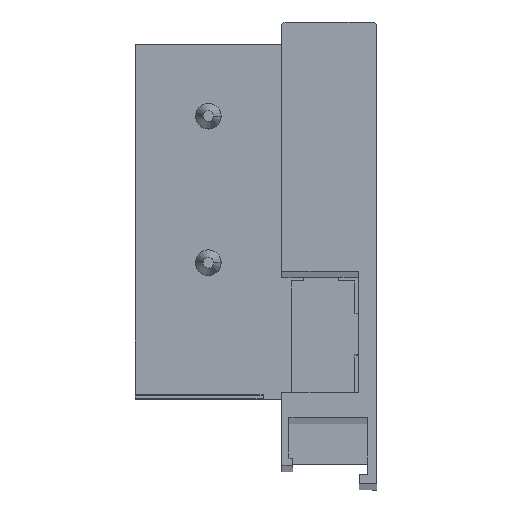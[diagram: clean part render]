
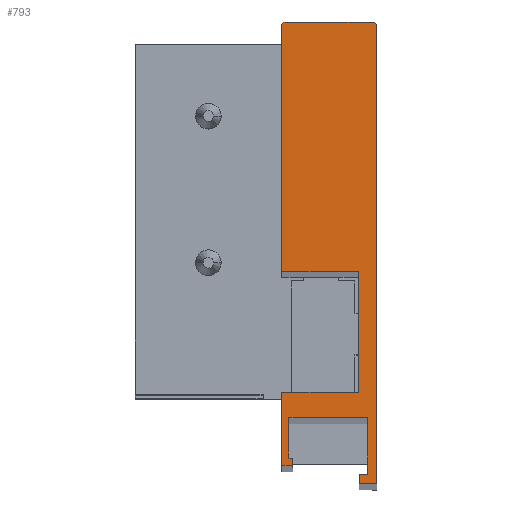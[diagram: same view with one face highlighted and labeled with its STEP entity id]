
A CAD part, top view. The second image highlights one B-rep face of the part: STEP entity #793.
In plain terms, the highlighted planar face has unit normal (0, 0, 1).
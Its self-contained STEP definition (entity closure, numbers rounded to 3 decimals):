
#8 = CARTESIAN_POINT ( 'NONE',  ( 13., 33.5, 0. ) ) ;
#16 = VECTOR ( 'NONE', #1567, 1000. ) ;
#39 = ORIENTED_EDGE ( 'NONE', *, *, #1610, .T. ) ;
#48 = DIRECTION ( 'NONE',  ( -1., 0., 0. ) ) ;
#65 = CARTESIAN_POINT ( 'NONE',  ( 12.5, 34., 0. ) ) ;
#71 = CARTESIAN_POINT ( 'NONE',  ( 1.5, -26.5, 0. ) ) ;
#92 = LINE ( 'NONE', #851, #825 ) ;
#94 = VERTEX_POINT ( 'NONE', #1085 ) ;
#142 = CARTESIAN_POINT ( 'NONE',  ( 12.5, 33.5, 0. ) ) ;
#156 = LINE ( 'NONE', #380, #1536 ) ;
#169 = CARTESIAN_POINT ( 'NONE',  ( 0., -16.5, 0. ) ) ;
#172 = VECTOR ( 'NONE', #48, 1000. ) ;
#174 = VECTOR ( 'NONE', #997, 1000. ) ;
#192 = DIRECTION ( 'NONE',  ( 0., 1., 0. ) ) ;
#213 = CARTESIAN_POINT ( 'NONE',  ( 0.5, 33.5, 0. ) ) ;
#222 = CARTESIAN_POINT ( 'NONE',  ( 0., 0., 0. ) ) ;
#240 = VECTOR ( 'NONE', #492, 1000. ) ;
#244 = VECTOR ( 'NONE', #871, 1000. ) ;
#250 = ORIENTED_EDGE ( 'NONE', *, *, #1949, .T. ) ;
#266 = VERTEX_POINT ( 'NONE', #1207 ) ;
#283 = ORIENTED_EDGE ( 'NONE', *, *, #1850, .T. ) ;
#287 = EDGE_LOOP ( 'NONE', ( #2057, #250, #937, #585, #283, #39, #1768, #1886, #1024, #1071, #1915, #1405, #1836, #1948, #1541, #1195, #656, #1569 ) ) ;
#295 = VECTOR ( 'NONE', #1241, 1000. ) ;
#300 = DIRECTION ( 'NONE',  ( 1., 0., 0. ) ) ;
#313 = VERTEX_POINT ( 'NONE', #386 ) ;
#323 = CARTESIAN_POINT ( 'NONE',  ( 0.5, 33.5, 0. ) ) ;
#332 = VECTOR ( 'NONE', #2024, 1000. ) ;
#334 = DIRECTION ( 'NONE',  ( 0., 0., -1. ) ) ;
#343 = VERTEX_POINT ( 'NONE', #394 ) ;
#349 = CIRCLE ( 'NONE', #1252, 0.5 ) ;
#355 = VERTEX_POINT ( 'NONE', #222 ) ;
#376 = VECTOR ( 'NONE', #926, 1000. ) ;
#380 = CARTESIAN_POINT ( 'NONE',  ( 0.5, 34., 0. ) ) ;
#386 = CARTESIAN_POINT ( 'NONE',  ( 0., -16.5, 0. ) ) ;
#387 = DIRECTION ( 'NONE',  ( -1., 0., 0. ) ) ;
#394 = CARTESIAN_POINT ( 'NONE',  ( 10.5, 0., 0. ) ) ;
#398 = CARTESIAN_POINT ( 'NONE',  ( 1., -19.969, 0. ) ) ;
#399 = CARTESIAN_POINT ( 'NONE',  ( 10.6, -27.7, 0. ) ) ;
#412 = VERTEX_POINT ( 'NONE', #399 ) ;
#462 = LINE ( 'NONE', #579, #16 ) ;
#468 = VERTEX_POINT ( 'NONE', #2113 ) ;
#469 = VECTOR ( 'NONE', #1706, 1000. ) ;
#491 = VECTOR ( 'NONE', #2086, 1000. ) ;
#492 = DIRECTION ( 'NONE',  ( 0., -1., 0. ) ) ;
#509 = CARTESIAN_POINT ( 'NONE',  ( 10.5, -16.5, 0. ) ) ;
#543 = AXIS2_PLACEMENT_3D ( 'NONE', #213, #1392, #387 ) ;
#567 = VERTEX_POINT ( 'NONE', #956 ) ;
#577 = LINE ( 'NONE', #1039, #172 ) ;
#579 = CARTESIAN_POINT ( 'NONE',  ( 10.6, -29., 0. ) ) ;
#585 = ORIENTED_EDGE ( 'NONE', *, *, #972, .T. ) ;
#593 = DIRECTION ( 'NONE',  ( 0., -1., 0. ) ) ;
#656 = ORIENTED_EDGE ( 'NONE', *, *, #1822, .T. ) ;
#689 = VERTEX_POINT ( 'NONE', #1652 ) ;
#752 = LINE ( 'NONE', #1370, #1594 ) ;
#772 = LINE ( 'NONE', #2111, #376 ) ;
#792 = EDGE_CURVE ( 'NONE', #567, #689, #1058, .T. ) ;
#793 = ADVANCED_FACE ( 'NONE', ( #1008 ), #1345, .F. ) ;
#802 = VECTOR ( 'NONE', #866, 1000. ) ;
#815 = VERTEX_POINT ( 'NONE', #1348 ) ;
#825 = VECTOR ( 'NONE', #1015, 1000. ) ;
#851 = CARTESIAN_POINT ( 'NONE',  ( 1.5, -26.5, 0. ) ) ;
#866 = DIRECTION ( 'NONE',  ( 1., 0., 0. ) ) ;
#867 = CARTESIAN_POINT ( 'NONE',  ( 10.6, -29., 0. ) ) ;
#871 = DIRECTION ( 'NONE',  ( 1., 0., 0. ) ) ;
#876 = CARTESIAN_POINT ( 'NONE',  ( 0., -26.5, 0. ) ) ;
#895 = EDGE_CURVE ( 'NONE', #1155, #815, #1301, .T. ) ;
#913 = LINE ( 'NONE', #1020, #469 ) ;
#926 = DIRECTION ( 'NONE',  ( 0., -1., 0. ) ) ;
#937 = ORIENTED_EDGE ( 'NONE', *, *, #1538, .T. ) ;
#941 = EDGE_CURVE ( 'NONE', #1903, #567, #752, .T. ) ;
#954 = EDGE_CURVE ( 'NONE', #1181, #468, #1999, .T. ) ;
#956 = CARTESIAN_POINT ( 'NONE',  ( 1.5, -25.5, 0. ) ) ;
#972 = EDGE_CURVE ( 'NONE', #1872, #1760, #156, .T. ) ;
#996 = CARTESIAN_POINT ( 'NONE',  ( 1., -25.5, 0. ) ) ;
#997 = DIRECTION ( 'NONE',  ( -1., 0., 0. ) ) ;
#1008 = FACE_OUTER_BOUND ( 'NONE', #287, .T. ) ;
#1015 = DIRECTION ( 'NONE',  ( 1., 0., 0. ) ) ;
#1020 = CARTESIAN_POINT ( 'NONE',  ( 10.5, -16.5, 0. ) ) ;
#1024 = ORIENTED_EDGE ( 'NONE', *, *, #1111, .T. ) ;
#1039 = CARTESIAN_POINT ( 'NONE',  ( 10.6, -27.7, 0. ) ) ;
#1051 = DIRECTION ( 'NONE',  ( 1., 0., 0. ) ) ;
#1058 = LINE ( 'NONE', #996, #332 ) ;
#1071 = ORIENTED_EDGE ( 'NONE', *, *, #1364, .T. ) ;
#1073 = CARTESIAN_POINT ( 'NONE',  ( 11.7, -27.7, 0. ) ) ;
#1085 = CARTESIAN_POINT ( 'NONE',  ( 11.7, -27.7, 0. ) ) ;
#1110 = VERTEX_POINT ( 'NONE', #509 ) ;
#1111 = EDGE_CURVE ( 'NONE', #1110, #313, #1272, .T. ) ;
#1155 = VERTEX_POINT ( 'NONE', #1696 ) ;
#1163 = EDGE_CURVE ( 'NONE', #343, #1110, #913, .T. ) ;
#1175 = AXIS2_PLACEMENT_3D ( 'NONE', #323, #334, #1509 ) ;
#1181 = VERTEX_POINT ( 'NONE', #867 ) ;
#1195 = ORIENTED_EDGE ( 'NONE', *, *, #1335, .T. ) ;
#1202 = CARTESIAN_POINT ( 'NONE',  ( 13., -29., 0. ) ) ;
#1207 = CARTESIAN_POINT ( 'NONE',  ( 0., 33.5, 0. ) ) ;
#1227 = VERTEX_POINT ( 'NONE', #876 ) ;
#1241 = DIRECTION ( 'NONE',  ( 0., 1., 0. ) ) ;
#1252 = AXIS2_PLACEMENT_3D ( 'NONE', #142, #1309, #300 ) ;
#1268 = LINE ( 'NONE', #1073, #1332 ) ;
#1272 = LINE ( 'NONE', #169, #174 ) ;
#1292 = VECTOR ( 'NONE', #1051, 1000. ) ;
#1301 = LINE ( 'NONE', #1873, #802 ) ;
#1305 = EDGE_CURVE ( 'NONE', #689, #1155, #1835, .T. ) ;
#1309 = DIRECTION ( 'NONE',  ( 0., 0., 1. ) ) ;
#1332 = VECTOR ( 'NONE', #593, 1000. ) ;
#1335 = EDGE_CURVE ( 'NONE', #815, #94, #1268, .T. ) ;
#1345 = PLANE ( 'NONE',  #1175 ) ;
#1348 = CARTESIAN_POINT ( 'NONE',  ( 11.7, -19.969, 0. ) ) ;
#1364 = EDGE_CURVE ( 'NONE', #313, #1227, #772, .T. ) ;
#1370 = CARTESIAN_POINT ( 'NONE',  ( 1.5, -25.5, 0. ) ) ;
#1392 = DIRECTION ( 'NONE',  ( 0., 0., 1. ) ) ;
#1405 = ORIENTED_EDGE ( 'NONE', *, *, #941, .T. ) ;
#1408 = CARTESIAN_POINT ( 'NONE',  ( 13., 33.5, 0. ) ) ;
#1494 = CARTESIAN_POINT ( 'NONE',  ( 0., 0., 0. ) ) ;
#1509 = DIRECTION ( 'NONE',  ( -1., 0., 0. ) ) ;
#1532 = LINE ( 'NONE', #1494, #240 ) ;
#1536 = VECTOR ( 'NONE', #1554, 1000. ) ;
#1538 = EDGE_CURVE ( 'NONE', #1665, #1872, #349, .T. ) ;
#1541 = ORIENTED_EDGE ( 'NONE', *, *, #895, .T. ) ;
#1554 = DIRECTION ( 'NONE',  ( -1., 0., 0. ) ) ;
#1567 = DIRECTION ( 'NONE',  ( 0., -1., 0. ) ) ;
#1569 = ORIENTED_EDGE ( 'NONE', *, *, #1887, .T. ) ;
#1594 = VECTOR ( 'NONE', #192, 1000. ) ;
#1610 = EDGE_CURVE ( 'NONE', #266, #355, #1532, .T. ) ;
#1652 = CARTESIAN_POINT ( 'NONE',  ( 1., -25.5, 0. ) ) ;
#1665 = VERTEX_POINT ( 'NONE', #8 ) ;
#1696 = CARTESIAN_POINT ( 'NONE',  ( 1., -19.969, 0. ) ) ;
#1700 = CARTESIAN_POINT ( 'NONE',  ( 0.5, 34., 0. ) ) ;
#1706 = DIRECTION ( 'NONE',  ( 0., -1., 0. ) ) ;
#1731 = EDGE_CURVE ( 'NONE', #1227, #1903, #92, .T. ) ;
#1749 = LINE ( 'NONE', #2082, #1292 ) ;
#1760 = VERTEX_POINT ( 'NONE', #1700 ) ;
#1768 = ORIENTED_EDGE ( 'NONE', *, *, #1884, .T. ) ;
#1822 = EDGE_CURVE ( 'NONE', #94, #412, #577, .T. ) ;
#1835 = LINE ( 'NONE', #398, #491 ) ;
#1836 = ORIENTED_EDGE ( 'NONE', *, *, #792, .T. ) ;
#1850 = EDGE_CURVE ( 'NONE', #1760, #266, #1905, .T. ) ;
#1872 = VERTEX_POINT ( 'NONE', #65 ) ;
#1873 = CARTESIAN_POINT ( 'NONE',  ( 11.7, -19.969, 0. ) ) ;
#1884 = EDGE_CURVE ( 'NONE', #355, #343, #1749, .T. ) ;
#1886 = ORIENTED_EDGE ( 'NONE', *, *, #1163, .T. ) ;
#1887 = EDGE_CURVE ( 'NONE', #412, #1181, #462, .T. ) ;
#1903 = VERTEX_POINT ( 'NONE', #71 ) ;
#1905 = CIRCLE ( 'NONE', #543, 0.5 ) ;
#1915 = ORIENTED_EDGE ( 'NONE', *, *, #1731, .T. ) ;
#1948 = ORIENTED_EDGE ( 'NONE', *, *, #1305, .T. ) ;
#1949 = EDGE_CURVE ( 'NONE', #468, #1665, #2097, .T. ) ;
#1999 = LINE ( 'NONE', #1202, #244 ) ;
#2024 = DIRECTION ( 'NONE',  ( -1., 0., 0. ) ) ;
#2057 = ORIENTED_EDGE ( 'NONE', *, *, #954, .T. ) ;
#2082 = CARTESIAN_POINT ( 'NONE',  ( 10.5, 0., 0. ) ) ;
#2086 = DIRECTION ( 'NONE',  ( 0., 1., 0. ) ) ;
#2097 = LINE ( 'NONE', #1408, #295 ) ;
#2111 = CARTESIAN_POINT ( 'NONE',  ( 0., -26.5, 0. ) ) ;
#2113 = CARTESIAN_POINT ( 'NONE',  ( 13., -29., 0. ) ) ;
